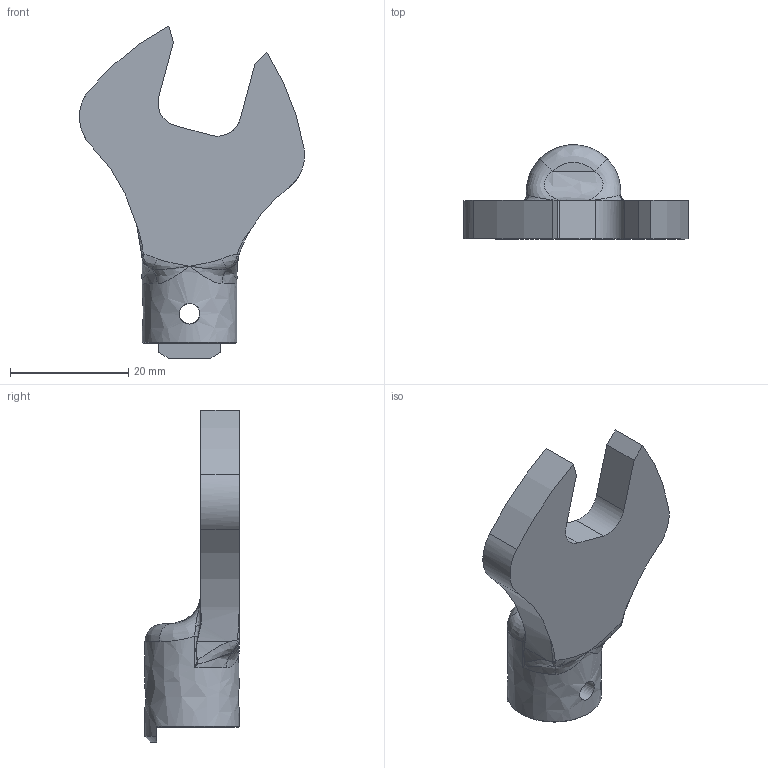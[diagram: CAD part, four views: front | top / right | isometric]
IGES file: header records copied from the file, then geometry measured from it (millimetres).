
Global section: file name: SH10DX9／16,2; native system: 2HAutodesk Inventor 2021; preprocessor: unknown; author: Q600; date: 20201027.182030; units: millimetre
Bounding box: 38.15 x 16 x 56.24 mm (x, y, z)
Volume: 7720.9 mm3; surface area: 4018.6 mm2
Topology: 1 solids, 1 shells, 71 faces, 197 edges, 117 vertices
Faces by surface type: bspline 71
